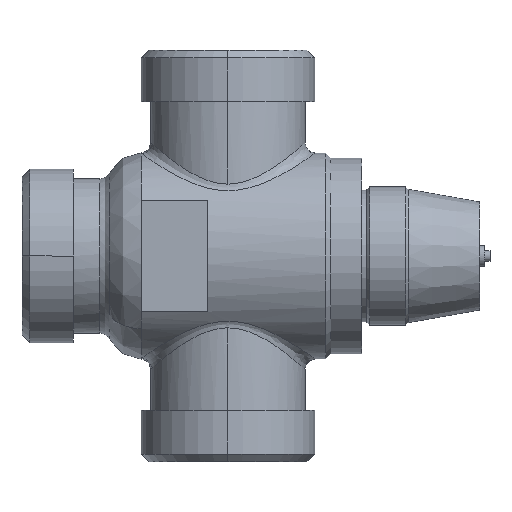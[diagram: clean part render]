
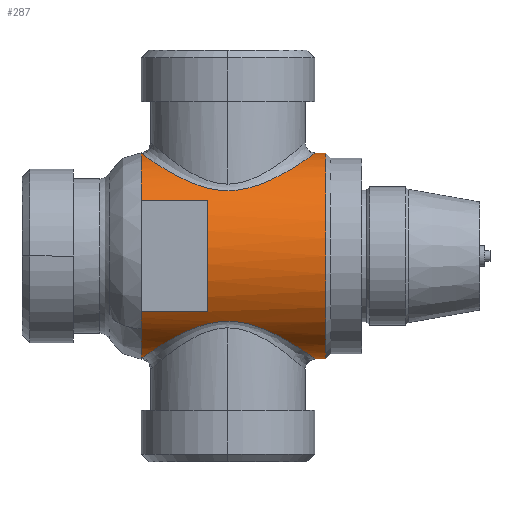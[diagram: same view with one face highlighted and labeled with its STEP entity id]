
A CAD part, left-side view. The second image highlights one B-rep face of the part: STEP entity #287.
In plain terms, the highlighted cylindrical face has radius 20 mm (diameter 40 mm), a partial arc.
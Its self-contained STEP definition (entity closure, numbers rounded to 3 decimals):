
#70=CARTESIAN_POINT('',(0.0,-19.0,20.0));
#71=VERTEX_POINT('',#70);
#80=CARTESIAN_POINT('',(0.,-19.,60.0));
#81=VERTEX_POINT('',#80);
#139=CARTESIAN_POINT('',(0.0,-4.5,40.0));
#140=DIRECTION('',(0.,1.0,0.));
#141=DIRECTION('',(0.0,0.0,-1.0));
#142=AXIS2_PLACEMENT_3D('',#139,#140,#141);
#143=CYLINDRICAL_SURFACE('',#142,20.0);
#144=CARTESIAN_POINT('',(0.,-17.,20.));
#145=VERTEX_POINT('',#144);
#146=CARTESIAN_POINT('',(0.0,-19.0,20.0));
#147=DIRECTION('',(0.0,1.0,0.0));
#148=VECTOR('',#147,2.);
#149=LINE('',#146,#148);
#150=EDGE_CURVE('',#71,#145,#149,.T.);
#151=ORIENTED_EDGE('',*,*,#150,.F.);
#152=CARTESIAN_POINT('',(0.0,-19.0,40.0));
#153=DIRECTION('',(0.0,1.0,0.0));
#154=DIRECTION('',(0.0,0.0,-1.0));
#155=AXIS2_PLACEMENT_3D('',#152,#153,#154);
#156=CIRCLE('',#155,20.0);
#157=EDGE_CURVE('',#71,#81,#156,.T.);
#158=ORIENTED_EDGE('',*,*,#157,.T.);
#159=CARTESIAN_POINT('',(0.,-17.,60.0));
#160=VERTEX_POINT('',#159);
#161=CARTESIAN_POINT('',(0.,-17.,60.0));
#162=DIRECTION('',(0.0,-1.0,0.0));
#163=VECTOR('',#162,2.0);
#164=LINE('',#161,#163);
#165=EDGE_CURVE('',#160,#81,#164,.T.);
#166=ORIENTED_EDGE('',*,*,#165,.F.);
#167=CARTESIAN_POINT('',(-15.455,0.0,52.695));
#168=VERTEX_POINT('',#167);
#169=CARTESIAN_POINT('',(0.,-17.,60.0));
#170=CARTESIAN_POINT('',(-2.789,-17.,60.0));
#171=CARTESIAN_POINT('',(-5.566,-16.122,59.368));
#172=CARTESIAN_POINT('',(-10.35,-13.025,57.33));
#173=CARTESIAN_POINT('',(-12.312,-10.745,55.867));
#174=CARTESIAN_POINT('',(-14.78,-5.629,53.562));
#175=CARTESIAN_POINT('',(-15.455,-2.864,52.695));
#176=CARTESIAN_POINT('',(-15.455,0.0,52.695));
#177=B_SPLINE_CURVE_WITH_KNOTS('',3,(#169,#170,#171,#172,#173,#174,#175,#176),.UNSPECIFIED.,.F.,.U.,(4,2,2,4),(71.757,79.639,88.347,95.678),.UNSPECIFIED.);
#178=EDGE_CURVE('',#168,#160,#177,.F.);
#179=ORIENTED_EDGE('',*,*,#178,.F.);
#180=CARTESIAN_POINT('',(-2.411,16.792,59.854));
#181=VERTEX_POINT('',#180);
#182=CARTESIAN_POINT('',(-15.455,0.0,52.695));
#183=CARTESIAN_POINT('',(-15.455,0.998,52.695));
#184=CARTESIAN_POINT('',(-15.374,1.995,52.795));
#185=CARTESIAN_POINT('',(-15.218,2.96,52.977));
#186=CARTESIAN_POINT('',(-14.97,4.504,53.268));
#187=CARTESIAN_POINT('',(-14.538,5.954,53.759));
#188=CARTESIAN_POINT('',(-13.963,7.287,54.319));
#189=CARTESIAN_POINT('',(-13.129,9.219,55.132));
#190=CARTESIAN_POINT('',(-11.997,10.924,56.087));
#191=CARTESIAN_POINT('',(-10.595,12.376,56.963));
#192=CARTESIAN_POINT('',(-8.794,14.242,58.088));
#193=CARTESIAN_POINT('',(-6.518,15.69,59.09));
#194=CARTESIAN_POINT('',(-3.943,16.437,59.607));
#195=CARTESIAN_POINT('',(-3.441,16.583,59.709));
#196=CARTESIAN_POINT('',(-2.93,16.702,59.791));
#197=CARTESIAN_POINT('',(-2.411,16.792,59.854));
#198=B_SPLINE_CURVE_WITH_KNOTS('',3,(#182,#183,#184,#185,#186,#187,#188,#189,#190,#191,#192,#193,#194,#195,#196,#197),.UNSPECIFIED.,.F.,.U.,(4,3,3,3,3,4),(0.0,2.553,6.639,12.558,20.162,21.648),.UNSPECIFIED.);
#199=EDGE_CURVE('',#181,#168,#198,.F.);
#200=ORIENTED_EDGE('',*,*,#199,.F.);
#201=CARTESIAN_POINT('',(-16.827,16.792,50.81));
#202=VERTEX_POINT('',#201);
#203=CARTESIAN_POINT('',(0.0,16.792,40.0));
#204=DIRECTION('',(0.,1.,0.));
#205=DIRECTION('',(0.707,0.,0.707));
#206=AXIS2_PLACEMENT_3D('',#203,#204,#205);
#207=CIRCLE('',#206,20.);
#208=EDGE_CURVE('',#202,#181,#207,.T.);
#209=ORIENTED_EDGE('',*,*,#208,.F.);
#210=CARTESIAN_POINT('',(-16.827,3.901,50.81));
#211=VERTEX_POINT('',#210);
#212=CARTESIAN_POINT('',(-16.827,3.901,50.81));
#213=DIRECTION('',(0.0,1.0,0.0));
#214=VECTOR('',#213,12.891);
#215=LINE('',#212,#214);
#216=EDGE_CURVE('',#211,#202,#215,.T.);
#217=ORIENTED_EDGE('',*,*,#216,.F.);
#218=CARTESIAN_POINT('',(-16.827,3.901,29.19));
#219=VERTEX_POINT('',#218);
#220=CARTESIAN_POINT('',(0.0,3.901,40.0));
#221=DIRECTION('',(0.0,1.0,0.0));
#222=DIRECTION('',(0.0,0.0,-1.0));
#223=AXIS2_PLACEMENT_3D('',#220,#221,#222);
#224=CIRCLE('',#223,20.0);
#225=EDGE_CURVE('',#219,#211,#224,.T.);
#226=ORIENTED_EDGE('',*,*,#225,.F.);
#227=CARTESIAN_POINT('',(-16.827,16.792,29.19));
#228=VERTEX_POINT('',#227);
#229=CARTESIAN_POINT('',(-16.827,16.792,29.19));
#230=DIRECTION('',(0.0,-1.0,0.0));
#231=VECTOR('',#230,12.891);
#232=LINE('',#229,#231);
#233=EDGE_CURVE('',#228,#219,#232,.T.);
#234=ORIENTED_EDGE('',*,*,#233,.F.);
#235=CARTESIAN_POINT('',(-14.142,16.792,25.858));
#236=VERTEX_POINT('',#235);
#237=CARTESIAN_POINT('',(0.0,16.792,40.0));
#238=DIRECTION('',(0.,1.,0.));
#239=DIRECTION('',(0.707,0.,0.707));
#240=AXIS2_PLACEMENT_3D('',#237,#238,#239);
#241=CIRCLE('',#240,20.);
#242=EDGE_CURVE('',#236,#228,#241,.T.);
#243=ORIENTED_EDGE('',*,*,#242,.F.);
#244=CARTESIAN_POINT('',(-2.411,16.792,20.146));
#245=VERTEX_POINT('',#244);
#246=CARTESIAN_POINT('',(0.0,16.792,40.0));
#247=DIRECTION('',(0.,1.,0.));
#248=DIRECTION('',(0.707,0.,0.707));
#249=AXIS2_PLACEMENT_3D('',#246,#247,#248);
#250=CIRCLE('',#249,20.);
#251=EDGE_CURVE('',#245,#236,#250,.T.);
#252=ORIENTED_EDGE('',*,*,#251,.F.);
#253=CARTESIAN_POINT('',(-15.455,0.0,27.305));
#254=VERTEX_POINT('',#253);
#255=CARTESIAN_POINT('',(-2.393,16.77,20.169));
#256=CARTESIAN_POINT('',(-4.346,16.429,20.409));
#257=CARTESIAN_POINT('',(-6.222,15.698,20.911));
#258=CARTESIAN_POINT('',(-10.35,13.025,22.67));
#259=CARTESIAN_POINT('',(-12.312,10.745,24.133));
#260=CARTESIAN_POINT('',(-14.78,5.629,26.438));
#261=CARTESIAN_POINT('',(-15.455,2.864,27.305));
#262=CARTESIAN_POINT('',(-15.455,0.0,27.305));
#263=B_SPLINE_CURVE_WITH_KNOTS('',3,(#255,#256,#257,#258,#259,#260,#261,#262),.UNSPECIFIED.,.F.,.U.,(4,2,2,4),(74.032,79.639,88.347,95.678),.UNSPECIFIED.);
#264=EDGE_CURVE('',#254,#245,#263,.F.);
#265=ORIENTED_EDGE('',*,*,#264,.F.);
#266=CARTESIAN_POINT('',(-15.455,0.0,27.305));
#267=CARTESIAN_POINT('',(-15.455,-0.998,27.305));
#268=CARTESIAN_POINT('',(-15.374,-1.995,27.205));
#269=CARTESIAN_POINT('',(-15.218,-2.96,27.023));
#270=CARTESIAN_POINT('',(-14.97,-4.504,26.732));
#271=CARTESIAN_POINT('',(-14.538,-5.954,26.241));
#272=CARTESIAN_POINT('',(-13.963,-7.287,25.681));
#273=CARTESIAN_POINT('',(-13.129,-9.219,24.868));
#274=CARTESIAN_POINT('',(-11.997,-10.924,23.913));
#275=CARTESIAN_POINT('',(-10.595,-12.376,23.037));
#276=CARTESIAN_POINT('',(-8.794,-14.242,21.912));
#277=CARTESIAN_POINT('',(-6.518,-15.69,20.91));
#278=CARTESIAN_POINT('',(-3.943,-16.437,20.393));
#279=CARTESIAN_POINT('',(-2.671,-16.807,20.137));
#280=CARTESIAN_POINT('',(-1.334,-17.,20.));
#281=CARTESIAN_POINT('',(0.,-17.,20.));
#282=B_SPLINE_CURVE_WITH_KNOTS('',3,(#266,#267,#268,#269,#270,#271,#272,#273,#274,#275,#276,#277,#278,#279,#280,#281),.UNSPECIFIED.,.F.,.U.,(4,3,3,3,3,4),(0.0,2.553,6.639,12.558,20.162,23.922),.UNSPECIFIED.);
#283=EDGE_CURVE('',#145,#254,#282,.F.);
#284=ORIENTED_EDGE('',*,*,#283,.F.);
#285=EDGE_LOOP('',(#151,#158,#166,#179,#200,#209,#217,#226,#234,#243,#252,#265,#284));
#286=FACE_OUTER_BOUND('',#285,.T.);
#287=ADVANCED_FACE('',(#286),#143,.T.);
